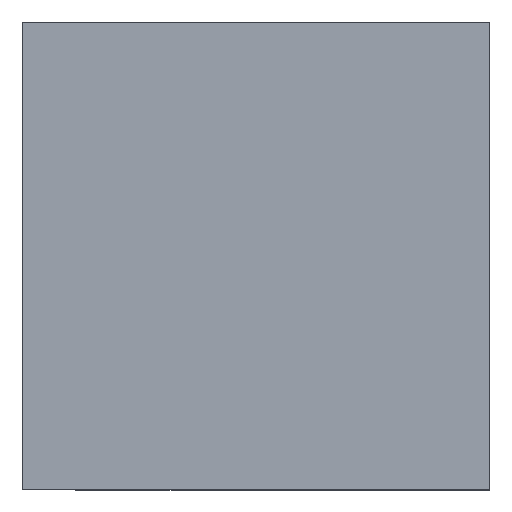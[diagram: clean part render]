
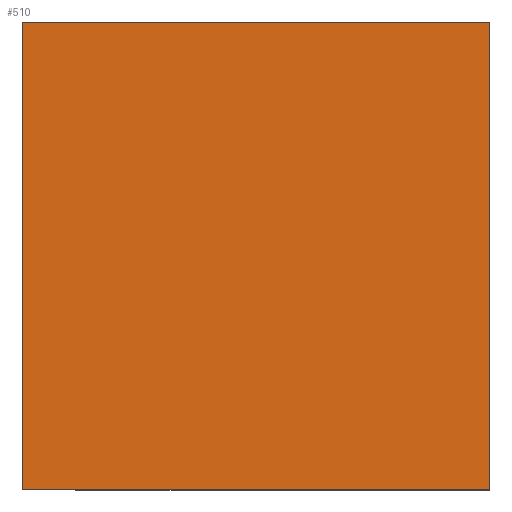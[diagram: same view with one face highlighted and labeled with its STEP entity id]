
A CAD part, top view. The second image highlights one B-rep face of the part: STEP entity #510.
In plain terms, the highlighted planar face has unit normal (0, 0, 1).
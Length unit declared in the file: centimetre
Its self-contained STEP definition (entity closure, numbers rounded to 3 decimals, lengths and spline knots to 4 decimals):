
#16 = VECTOR ( 'NONE', #269, 100. ) ;
#29 = DIRECTION ( 'NONE',  ( -1., 0., 0. ) ) ;
#30 = DIRECTION ( 'NONE',  ( 0., 0., 1. ) ) ;
#74 = CARTESIAN_POINT ( 'NONE',  ( 0., 1000., 1000. ) ) ;
#94 = EDGE_CURVE ( 'NONE', #146, #609, #363, .T. ) ;
#109 = AXIS2_PLACEMENT_3D ( 'NONE', #307, #30, #464 ) ;
#118 = LINE ( 'NONE', #314, #217 ) ;
#146 = VERTEX_POINT ( 'NONE', #74 ) ;
#157 = DIRECTION ( 'NONE',  ( 0., -1., 0. ) ) ;
#166 = PLANE ( 'NONE',  #109 ) ;
#170 = FACE_OUTER_BOUND ( 'NONE', #344, .T. ) ;
#181 = LINE ( 'NONE', #271, #422 ) ;
#184 = CARTESIAN_POINT ( 'NONE',  ( 1000., 1000., 1000. ) ) ;
#186 = CARTESIAN_POINT ( 'NONE',  ( 1000., 0., 1000. ) ) ;
#207 = EDGE_CURVE ( 'NONE', #564, #146, #181, .T. ) ;
#217 = VECTOR ( 'NONE', #372, 100. ) ;
#263 = EDGE_CURVE ( 'NONE', #609, #529, #274, .T. ) ;
#269 = DIRECTION ( 'NONE',  ( 1., 0., 0. ) ) ;
#271 = CARTESIAN_POINT ( 'NONE',  ( 0., 1000., 1000. ) ) ;
#272 = CARTESIAN_POINT ( 'NONE',  ( 0., 0., 1000. ) ) ;
#274 = LINE ( 'NONE', #481, #16 ) ;
#307 = CARTESIAN_POINT ( 'NONE',  ( 0., 0., 1000. ) ) ;
#311 = ORIENTED_EDGE ( 'NONE', *, *, #518, .T. ) ;
#314 = CARTESIAN_POINT ( 'NONE',  ( 1000., 1000., 1000. ) ) ;
#317 = VECTOR ( 'NONE', #157, 100. ) ;
#318 = ORIENTED_EDGE ( 'NONE', *, *, #207, .T. ) ;
#325 = ORIENTED_EDGE ( 'NONE', *, *, #263, .T. ) ;
#344 = EDGE_LOOP ( 'NONE', ( #542, #325, #311, #318 ) ) ;
#363 = LINE ( 'NONE', #463, #317 ) ;
#372 = DIRECTION ( 'NONE',  ( 0., 1., 0. ) ) ;
#422 = VECTOR ( 'NONE', #29, 100. ) ;
#463 = CARTESIAN_POINT ( 'NONE',  ( 0., 1000., 1000. ) ) ;
#464 = DIRECTION ( 'NONE',  ( 1., 0., 0. ) ) ;
#481 = CARTESIAN_POINT ( 'NONE',  ( 0., 0., 1000. ) ) ;
#510 = ADVANCED_FACE ( 'NONE', ( #170 ), #166, .T. ) ;
#518 = EDGE_CURVE ( 'NONE', #529, #564, #118, .T. ) ;
#529 = VERTEX_POINT ( 'NONE', #186 ) ;
#542 = ORIENTED_EDGE ( 'NONE', *, *, #94, .T. ) ;
#564 = VERTEX_POINT ( 'NONE', #184 ) ;
#609 = VERTEX_POINT ( 'NONE', #272 ) ;
